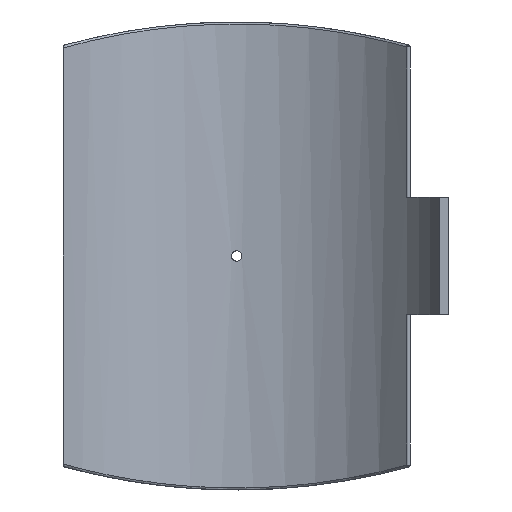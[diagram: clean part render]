
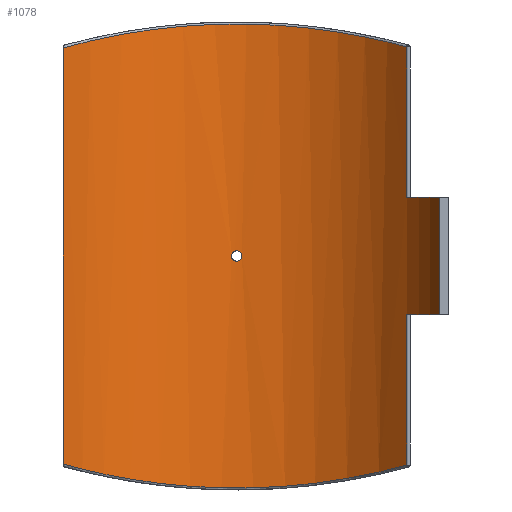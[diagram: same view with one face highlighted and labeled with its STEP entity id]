
A CAD part, front view. The second image highlights one B-rep face of the part: STEP entity #1078.
In plain terms, the highlighted cylindrical face has radius 225 mm (diameter 450 mm), a partial arc.
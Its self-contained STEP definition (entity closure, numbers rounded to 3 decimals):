
#55=FACE_BOUND('',#355,.T.);
#109=B_SPLINE_CURVE_WITH_KNOTS('',3,(#2211,#2212,#2213,#2214,#2215,#2216,
#2217,#2218,#2219,#2220),.UNSPECIFIED.,.F.,.F.,(4,1,1,1,1,1,1,4),(-46.393,
-40.684,-34.974,-29.264,-23.554,
-17.844,-12.134,-6.424),.UNSPECIFIED.);
#110=B_SPLINE_CURVE_WITH_KNOTS('',3,(#2229,#2230,#2231,#2232,#2233,#2234,
#2235,#2236,#2237,#2238),.UNSPECIFIED.,.F.,.F.,(4,1,1,1,1,1,1,4),(-44.48,
-38.77,-33.06,-27.35,-21.64,
-15.93,-10.22,-4.51),.UNSPECIFIED.);
#111=B_SPLINE_CURVE_WITH_KNOTS('',3,(#2241,#2242,#2243,#2244,#2245,#2246,
#2247,#2248,#2249,#2250),.UNSPECIFIED.,.F.,.F.,(4,2,2,2,4),(0.,0.196,
0.392,0.588,0.784),.UNSPECIFIED.);
#112=B_SPLINE_CURVE_WITH_KNOTS('',3,(#2251,#2252,#2253,#2254,#2255,#2256,
#2257,#2258,#2259,#2260,#2261,#2262,#2263,#2264,#2265,#2266,#2267,#2268,
#2269,#2270,#2271,#2272,#2273,#2274,#2275,#2276),.UNSPECIFIED.,.F.,.F.,
(4,2,2,2,2,2,2,2,2,2,2,2,4),(0.784,0.979,1.175,
1.371,1.567,1.763,1.959,2.155,
2.351,2.546,2.742,2.938,3.134),
 .UNSPECIFIED.);
#133=LINE('',#1615,#184);
#144=LINE('',#1899,#195);
#151=LINE('',#2225,#202);
#152=LINE('',#2228,#203);
#184=VECTOR('',#1292,10.);
#195=VECTOR('',#1331,10.);
#202=VECTOR('',#1368,10.);
#203=VECTOR('',#1371,10.);
#244=CYLINDRICAL_SURFACE('',#1175,225.);
#288=FACE_OUTER_BOUND('',#354,.T.);
#354=EDGE_LOOP('',(#839,#840,#841,#842,#843,#844,#845,#846));
#355=EDGE_LOOP('',(#847,#848));
#449=CIRCLE('',#1176,225.);
#450=CIRCLE('',#1177,225.);
#510=VERTEX_POINT('',#1606);
#513=VERTEX_POINT('',#1613);
#533=VERTEX_POINT('',#1892);
#536=VERTEX_POINT('',#1897);
#549=VERTEX_POINT('',#2191);
#550=VERTEX_POINT('',#2222);
#551=VERTEX_POINT('',#2224);
#552=VERTEX_POINT('',#2227);
#553=VERTEX_POINT('',#2239);
#554=VERTEX_POINT('',#2240);
#613=EDGE_CURVE('',#513,#510,#133,.T.);
#643=EDGE_CURVE('',#536,#533,#144,.T.);
#666=EDGE_CURVE('',#549,#536,#109,.T.);
#667=EDGE_CURVE('',#550,#513,#449,.T.);
#668=EDGE_CURVE('',#550,#551,#151,.T.);
#669=EDGE_CURVE('',#533,#551,#450,.T.);
#670=EDGE_CURVE('',#552,#549,#152,.T.);
#671=EDGE_CURVE('',#510,#552,#110,.T.);
#672=EDGE_CURVE('',#553,#554,#111,.T.);
#673=EDGE_CURVE('',#554,#553,#112,.T.);
#839=ORIENTED_EDGE('',*,*,#667,.F.);
#840=ORIENTED_EDGE('',*,*,#668,.T.);
#841=ORIENTED_EDGE('',*,*,#669,.F.);
#842=ORIENTED_EDGE('',*,*,#643,.F.);
#843=ORIENTED_EDGE('',*,*,#666,.F.);
#844=ORIENTED_EDGE('',*,*,#670,.F.);
#845=ORIENTED_EDGE('',*,*,#671,.F.);
#846=ORIENTED_EDGE('',*,*,#613,.F.);
#847=ORIENTED_EDGE('',*,*,#672,.T.);
#848=ORIENTED_EDGE('',*,*,#673,.T.);
#1078=ADVANCED_FACE('',(#288,#55),#244,.F.);
#1175=AXIS2_PLACEMENT_3D('',#2221,#1364,#1365);
#1176=AXIS2_PLACEMENT_3D('',#2223,#1366,#1367);
#1177=AXIS2_PLACEMENT_3D('',#2226,#1369,#1370);
#1292=DIRECTION('',(0.,0.,-1.));
#1331=DIRECTION('',(0.,0.,-1.));
#1364=DIRECTION('center_axis',(0.,0.,1.));
#1365=DIRECTION('ref_axis',(-1.,0.,0.));
#1366=DIRECTION('center_axis',(0.,0.,1.));
#1367=DIRECTION('ref_axis',(-0.905,-0.426,0.));
#1368=DIRECTION('',(0.,0.,1.));
#1369=DIRECTION('center_axis',(0.,0.,-1.));
#1370=DIRECTION('ref_axis',(-0.905,-0.426,0.));
#1371=DIRECTION('',(0.,0.,1.));
#1606=CARTESIAN_POINT('',(170.633,146.66,-209.974));
#1613=CARTESIAN_POINT('',(170.633,146.66,-58.75));
#1615=CARTESIAN_POINT('',(170.633,146.66,0.));
#1892=CARTESIAN_POINT('',(170.633,146.66,58.75));
#1897=CARTESIAN_POINT('',(170.633,146.66,209.974));
#1899=CARTESIAN_POINT('',(170.633,146.66,0.));
#2191=CARTESIAN_POINT('',(-174.15,142.467,208.997));
#2211=CARTESIAN_POINT('Ctrl Pts',(-174.15,142.467,208.997));
#2212=CARTESIAN_POINT('Ctrl Pts',(-162.386,156.847,212.301));
#2213=CARTESIAN_POINT('Ctrl Pts',(-135.318,182.649,219.179));
#2214=CARTESIAN_POINT('Ctrl Pts',(-86.226,210.367,227.932));
#2215=CARTESIAN_POINT('Ctrl Pts',(-31.338,225.217,233.07));
#2216=CARTESIAN_POINT('Ctrl Pts',(25.765,225.926,233.324));
#2217=CARTESIAN_POINT('Ctrl Pts',(81.041,212.421,228.623));
#2218=CARTESIAN_POINT('Ctrl Pts',(130.835,185.89,220.145));
#2219=CARTESIAN_POINT('Ctrl Pts',(158.526,160.747,213.301));
#2220=CARTESIAN_POINT('Ctrl Pts',(170.633,146.66,209.974));
#2221=CARTESIAN_POINT('Origin',(0.,0.,0.));
#2222=CARTESIAN_POINT('',(203.548,95.882,-58.75));
#2223=CARTESIAN_POINT('Origin',(0.,0.,
-58.75));
#2224=CARTESIAN_POINT('',(203.548,95.882,58.75));
#2225=CARTESIAN_POINT('',(203.548,95.882,0.));
#2226=CARTESIAN_POINT('Origin',(0.,0.,
58.75));
#2227=CARTESIAN_POINT('',(-174.15,142.467,-208.997));
#2228=CARTESIAN_POINT('',(-174.15,142.467,0.));
#2229=CARTESIAN_POINT('Ctrl Pts',(170.633,146.66,-209.974));
#2230=CARTESIAN_POINT('Ctrl Pts',(158.526,160.747,-213.301));
#2231=CARTESIAN_POINT('Ctrl Pts',(130.834,185.89,-220.145));
#2232=CARTESIAN_POINT('Ctrl Pts',(81.041,212.422,-228.624));
#2233=CARTESIAN_POINT('Ctrl Pts',(25.764,225.925,-233.322));
#2234=CARTESIAN_POINT('Ctrl Pts',(-31.339,225.219,-233.072));
#2235=CARTESIAN_POINT('Ctrl Pts',(-86.225,210.366,-227.93));
#2236=CARTESIAN_POINT('Ctrl Pts',(-135.318,182.649,-219.18));
#2237=CARTESIAN_POINT('Ctrl Pts',(-162.386,156.847,-212.301));
#2238=CARTESIAN_POINT('Ctrl Pts',(-174.15,142.467,-208.997));
#2239=CARTESIAN_POINT('',(5.2,224.94,0.));
#2240=CARTESIAN_POINT('',(0.,225.,-5.2));
#2241=CARTESIAN_POINT('Ctrl Pts',(5.2,224.94,0.));
#2242=CARTESIAN_POINT('Ctrl Pts',(5.2,224.94,-0.653));
#2243=CARTESIAN_POINT('Ctrl Pts',(5.07,224.943,-1.349));
#2244=CARTESIAN_POINT('Ctrl Pts',(4.539,224.954,-2.631));
#2245=CARTESIAN_POINT('Ctrl Pts',(4.139,224.962,-3.215));
#2246=CARTESIAN_POINT('Ctrl Pts',(3.215,224.977,-4.139));
#2247=CARTESIAN_POINT('Ctrl Pts',(2.631,224.986,-4.539));
#2248=CARTESIAN_POINT('Ctrl Pts',(1.349,224.997,-5.07));
#2249=CARTESIAN_POINT('Ctrl Pts',(0.653,225.,-5.2));
#2250=CARTESIAN_POINT('Ctrl Pts',(0.,225.,-5.2));
#2251=CARTESIAN_POINT('Ctrl Pts',(0.,225.,-5.2));
#2252=CARTESIAN_POINT('Ctrl Pts',(-0.653,225.,-5.2));
#2253=CARTESIAN_POINT('Ctrl Pts',(-1.349,224.997,-5.07));
#2254=CARTESIAN_POINT('Ctrl Pts',(-2.631,224.986,-4.539));
#2255=CARTESIAN_POINT('Ctrl Pts',(-3.215,224.977,-4.139));
#2256=CARTESIAN_POINT('Ctrl Pts',(-4.139,224.962,-3.215));
#2257=CARTESIAN_POINT('Ctrl Pts',(-4.539,224.954,-2.631));
#2258=CARTESIAN_POINT('Ctrl Pts',(-5.07,224.943,-1.349));
#2259=CARTESIAN_POINT('Ctrl Pts',(-5.2,224.94,-0.653));
#2260=CARTESIAN_POINT('Ctrl Pts',(-5.2,224.94,0.653));
#2261=CARTESIAN_POINT('Ctrl Pts',(-5.07,224.943,1.349));
#2262=CARTESIAN_POINT('Ctrl Pts',(-4.539,224.954,2.631));
#2263=CARTESIAN_POINT('Ctrl Pts',(-4.139,224.962,3.215));
#2264=CARTESIAN_POINT('Ctrl Pts',(-3.215,224.977,4.139));
#2265=CARTESIAN_POINT('Ctrl Pts',(-2.631,224.986,4.539));
#2266=CARTESIAN_POINT('Ctrl Pts',(-1.349,224.997,5.07));
#2267=CARTESIAN_POINT('Ctrl Pts',(-0.653,225.,5.2));
#2268=CARTESIAN_POINT('Ctrl Pts',(0.653,225.,5.2));
#2269=CARTESIAN_POINT('Ctrl Pts',(1.349,224.997,5.07));
#2270=CARTESIAN_POINT('Ctrl Pts',(2.631,224.986,4.539));
#2271=CARTESIAN_POINT('Ctrl Pts',(3.215,224.977,4.139));
#2272=CARTESIAN_POINT('Ctrl Pts',(4.139,224.962,3.215));
#2273=CARTESIAN_POINT('Ctrl Pts',(4.539,224.954,2.631));
#2274=CARTESIAN_POINT('Ctrl Pts',(5.07,224.943,1.349));
#2275=CARTESIAN_POINT('Ctrl Pts',(5.2,224.94,0.653));
#2276=CARTESIAN_POINT('Ctrl Pts',(5.2,224.94,0.));
